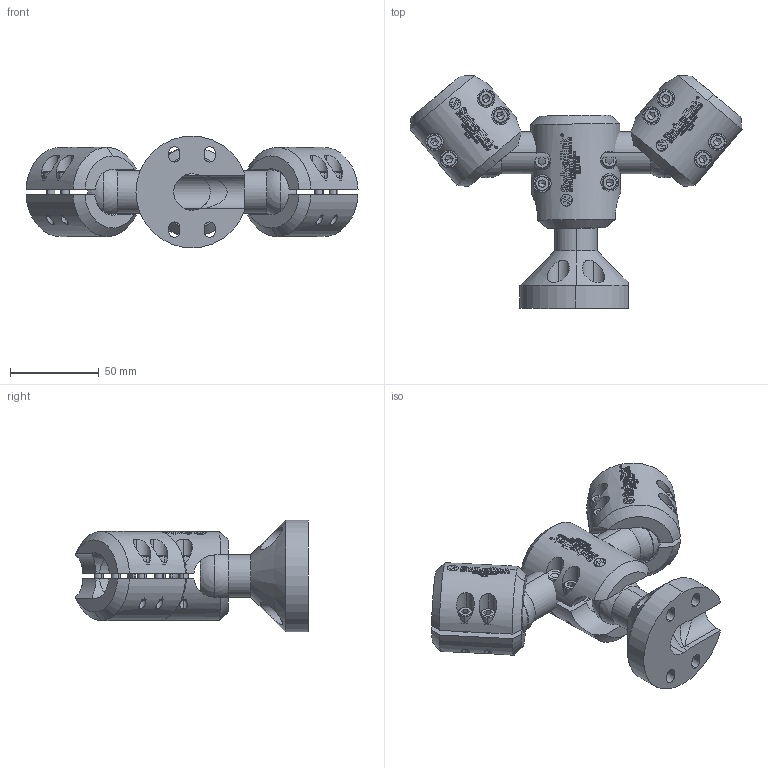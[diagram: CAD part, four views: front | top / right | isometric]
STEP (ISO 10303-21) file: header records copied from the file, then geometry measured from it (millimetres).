
FILE_DESCRIPTION (( 'STEP AP214' ), '1' );
FILE_NAME ('SLM-1100.STEP', '2022-08-11T10:41:21', ( '' ), ( '' ), 'SwSTEP 2.0', 'SolidWorks 2021', '' );
FILE_SCHEMA (( 'AUTOMOTIVE_DESIGN' ));
Length unit declared in the file: inch
Products named in the file (8): SLM-290; SLM-1; SLM-290_Swivellink Logo; SLM-1100; SLM-2_Swivellink Etching; MSHCS-39547-BO_MSHCS-39547-BO; SLM-3T; SLM-2
Assembly tree (15 placements, depth 3):
  SLM-1100
    SLM-1
    SLM-290
      MSHCS-39547-BO_MSHCS-39547-BO  x4
      SLM-290_Swivellink Logo
    SLM-3T
    SLM-2  x2
      SLM-2_Swivellink Etching
      MSHCS-39547-BO_MSHCS-39547-BO
Bounding box: 187.48 x 131.53 x 63.12 mm (x, y, z)
Volume: 214408 mm3; surface area: 93603.1 mm2
Topology: 19 solids, 21 shells, 842 faces, 4550 edges, 3965 vertices
Faces by surface type: cylinder 404, plane 250, cone 108, torus 44, sphere 35, bspline 1
Entity records: 35601 total; most frequent: CARTESIAN_POINT 13548, ORIENTED_EDGE 5416, DIRECTION 2870, EDGE_CURVE 2710, VERTEX_POINT 2474, B_SPLINE_CURVE_WITH_KNOTS 1367, AXIS2_PLACEMENT_3D 1107, CIRCLE 685
